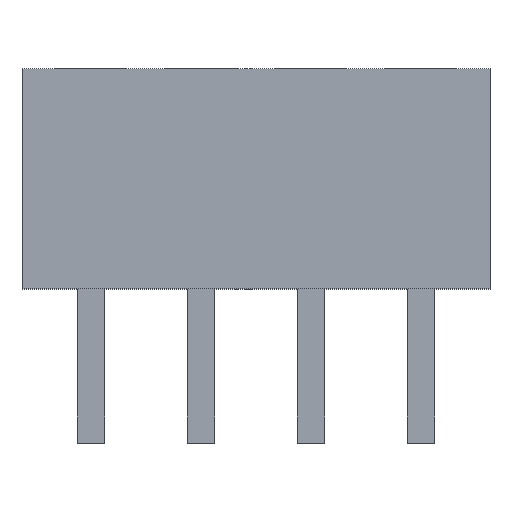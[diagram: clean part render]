
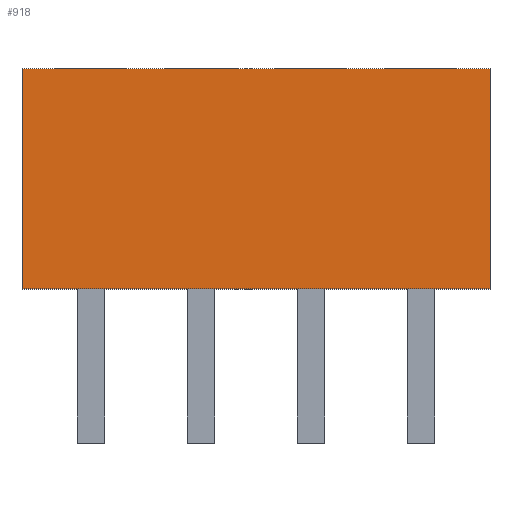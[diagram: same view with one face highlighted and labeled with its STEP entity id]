
A CAD part, top view. The second image highlights one B-rep face of the part: STEP entity #918.
In plain terms, the highlighted planar face has unit normal (0, 0, 1).
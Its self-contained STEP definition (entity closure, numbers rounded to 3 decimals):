
#37 = VECTOR ( 'NONE', #1960, 1000. ) ;
#48 = CARTESIAN_POINT ( 'NONE',  ( 6.51, 1.891, 2.25 ) ) ;
#121 = CARTESIAN_POINT ( 'NONE',  ( -1.99, -2.109, 2.25 ) ) ;
#517 = ORIENTED_EDGE ( 'NONE', *, *, #4115, .T. ) ;
#666 = DIRECTION ( 'NONE',  ( 0., -1., 0. ) ) ;
#918 = ADVANCED_FACE ( 'NONE', ( #3664 ), #4536, .T. ) ;
#976 = EDGE_CURVE ( 'NONE', #4904, #1476, #1684, .T. ) ;
#1476 = VERTEX_POINT ( 'NONE', #3758 ) ;
#1662 = ORIENTED_EDGE ( 'NONE', *, *, #4289, .T. ) ;
#1676 = AXIS2_PLACEMENT_3D ( 'NONE', #4161, #3401, #2961 ) ;
#1684 = LINE ( 'NONE', #5029, #1855 ) ;
#1855 = VECTOR ( 'NONE', #4620, 1000. ) ;
#1960 = DIRECTION ( 'NONE',  ( 0., -1., 0. ) ) ;
#1990 = EDGE_CURVE ( 'NONE', #2220, #1476, #3712, .T. ) ;
#2172 = VERTEX_POINT ( 'NONE', #5258 ) ;
#2220 = VERTEX_POINT ( 'NONE', #48 ) ;
#2628 = ORIENTED_EDGE ( 'NONE', *, *, #976, .T. ) ;
#2634 = VECTOR ( 'NONE', #4711, 1000. ) ;
#2961 = DIRECTION ( 'NONE',  ( 1., 0., 0. ) ) ;
#3401 = DIRECTION ( 'NONE',  ( 0., 0., 1. ) ) ;
#3435 = LINE ( 'NONE', #3860, #2634 ) ;
#3628 = CARTESIAN_POINT ( 'NONE',  ( 6.51, 1.891, 2.25 ) ) ;
#3664 = FACE_OUTER_BOUND ( 'NONE', #5186, .T. ) ;
#3672 = VECTOR ( 'NONE', #666, 1000. ) ;
#3712 = LINE ( 'NONE', #3628, #37 ) ;
#3758 = CARTESIAN_POINT ( 'NONE',  ( 6.51, -2.109, 2.25 ) ) ;
#3860 = CARTESIAN_POINT ( 'NONE',  ( -1.99, 1.891, 2.25 ) ) ;
#4113 = CARTESIAN_POINT ( 'NONE',  ( -1.99, 1.891, 2.25 ) ) ;
#4115 = EDGE_CURVE ( 'NONE', #2172, #4904, #4520, .T. ) ;
#4161 = CARTESIAN_POINT ( 'NONE',  ( 0., 0., 2.25 ) ) ;
#4289 = EDGE_CURVE ( 'NONE', #2220, #2172, #3435, .T. ) ;
#4520 = LINE ( 'NONE', #4113, #3672 ) ;
#4536 = PLANE ( 'NONE',  #1676 ) ;
#4620 = DIRECTION ( 'NONE',  ( 1., 0., 0. ) ) ;
#4711 = DIRECTION ( 'NONE',  ( -1., 0., 0. ) ) ;
#4904 = VERTEX_POINT ( 'NONE', #121 ) ;
#5029 = CARTESIAN_POINT ( 'NONE',  ( -1.99, -2.109, 2.25 ) ) ;
#5186 = EDGE_LOOP ( 'NONE', ( #2628, #5499, #1662, #517 ) ) ;
#5258 = CARTESIAN_POINT ( 'NONE',  ( -1.99, 1.891, 2.25 ) ) ;
#5499 = ORIENTED_EDGE ( 'NONE', *, *, #1990, .F. ) ;
